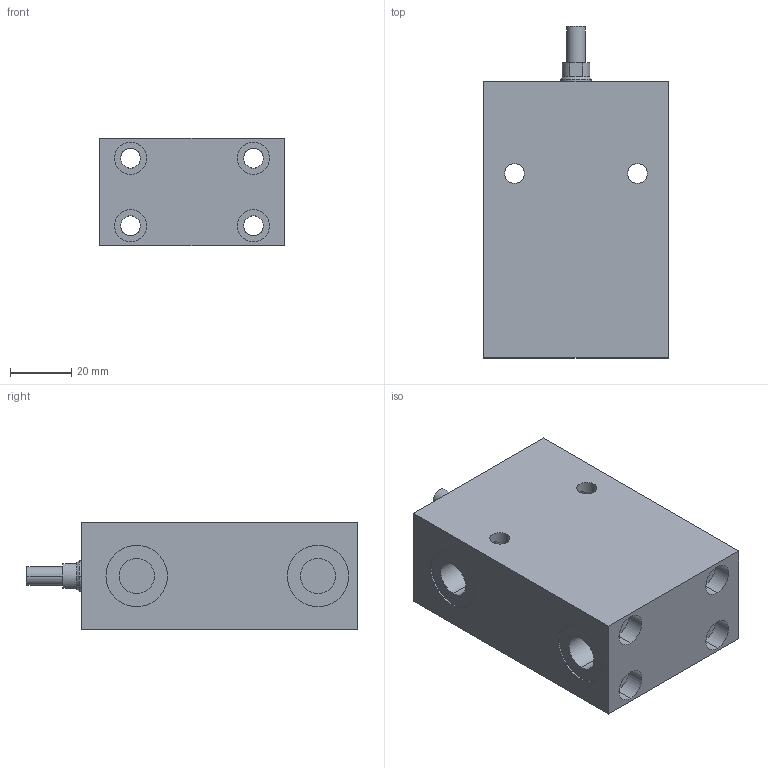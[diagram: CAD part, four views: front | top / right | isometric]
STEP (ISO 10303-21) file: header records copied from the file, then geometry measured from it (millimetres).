
FILE_DESCRIPTION (( 'STEP AP203' ), '1' );
FILE_NAME ('GERMA_Blockzylinder_600-016-050-A.STEP', '2015-07-16T12:21:28', ( '' ), ( '' ), 'SwSTEP 2.0', 'SolidWorks 2015', '' );
FILE_SCHEMA (( 'CONFIG_CONTROL_DESIGN' ));
Length unit declared in the file: millimetre
Products named in the file (3): Kolben 60x-016_Kolben DU.16-Hub50-AG; GERMA_Blockzylinder_600-016-050-A; GH-600-016_GH-600-016-050
Assembly tree (2 placements, depth 2):
  GERMA_Blockzylinder_600-016-050-A
    GH-600-016_GH-600-016-050
    Kolben 60x-016_Kolben DU.16-Hub50-AG
Bounding box: 60 x 108 x 35 mm (x, y, z)
Volume: 164113.9 mm3; surface area: 38182.9 mm2
Topology: 2 solids, 2 shells, 111 faces, 254 edges, 155 vertices
Faces by surface type: cylinder 69, plane 30, cone 12
Entity records: 3448 total; most frequent: CARTESIAN_POINT 617, DIRECTION 569, ORIENTED_EDGE 500, EDGE_CURVE 250, AXIS2_PLACEMENT_3D 235, VERTEX_POINT 155, EDGE_LOOP 143, CIRCLE 119
